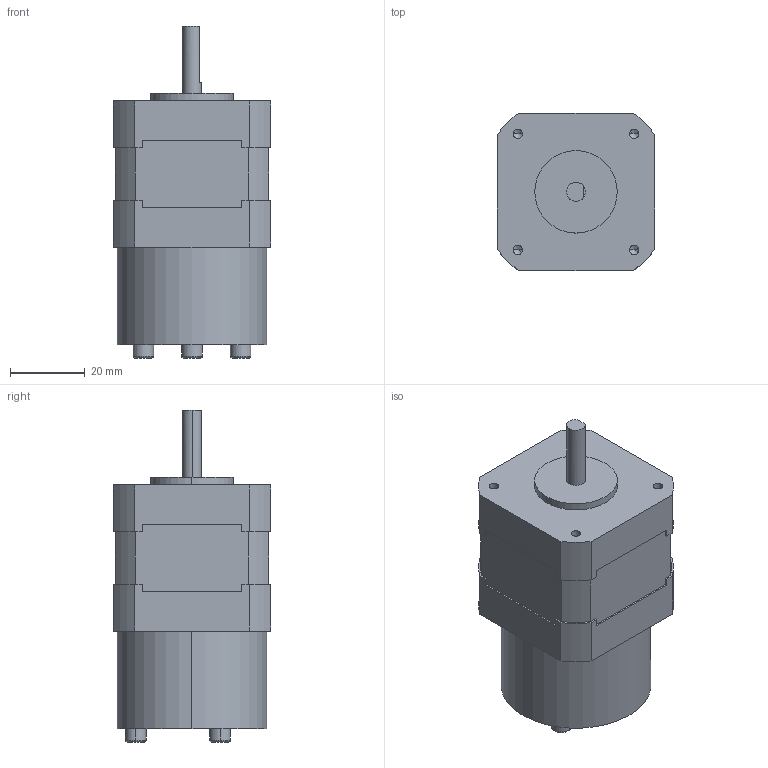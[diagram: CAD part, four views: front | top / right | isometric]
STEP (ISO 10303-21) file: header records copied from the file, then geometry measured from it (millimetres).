
FILE_DESCRIPTION (( 'STEP AP214' ), '1' );
FILE_NAME ('K244-01M.STEP', '2016-09-08T08:50:29', ( 'hoho' ), ( '' ), 'SwSTEP 2.0', 'SolidWorks 2013', '' );
FILE_SCHEMA (( 'AUTOMOTIVE_DESIGN' ));
Length unit declared in the file: millimetre
Products named in the file (1): K244-01M
Bounding box: 42 x 42 x 88.6 mm (x, y, z)
Volume: 99165.6 mm3; surface area: 13627.4 mm2
Topology: 1 solids, 1 shells, 100 faces, 262 edges, 166 vertices
Faces by surface type: plane 54, cylinder 32, cone 8, torus 6
Entity records: 3226 total; most frequent: DIRECTION 534, CARTESIAN_POINT 521, ORIENTED_EDGE 508, EDGE_CURVE 254, AXIS2_PLACEMENT_3D 179, VECTOR 176, LINE 176, VERTEX_POINT 166
